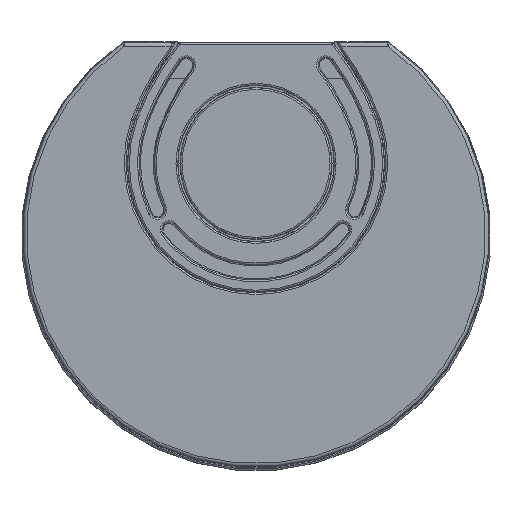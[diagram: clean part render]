
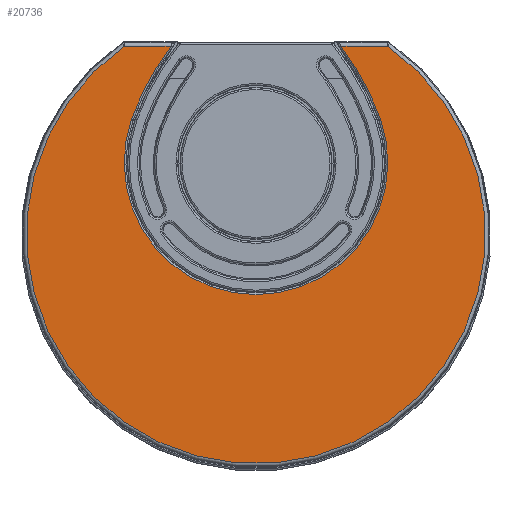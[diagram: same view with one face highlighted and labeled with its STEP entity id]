
A CAD part, top view. The second image highlights one B-rep face of the part: STEP entity #20736.
In plain terms, the highlighted planar face has unit normal (0, 0, 1).
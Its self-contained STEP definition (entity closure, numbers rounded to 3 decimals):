
#2532=CIRCLE('',#23192,152.766);
#2533=CIRCLE('',#23193,302.766);
#2534=CIRCLE('',#23194,0.09);
#2535=CIRCLE('',#23195,266.055);
#2536=CIRCLE('',#23196,0.09);
#2537=CIRCLE('',#23197,302.766);
#3456=ORIENTED_EDGE('',*,*,#9962,.T.);
#3457=ORIENTED_EDGE('',*,*,#9963,.T.);
#3458=ORIENTED_EDGE('',*,*,#9964,.T.);
#3459=ORIENTED_EDGE('',*,*,#9965,.T.);
#3460=ORIENTED_EDGE('',*,*,#9966,.T.);
#3461=ORIENTED_EDGE('',*,*,#9967,.T.);
#3462=ORIENTED_EDGE('',*,*,#9968,.T.);
#3463=ORIENTED_EDGE('',*,*,#9969,.T.);
#9962=EDGE_CURVE('',#13213,#13214,#2532,.F.);
#9963=EDGE_CURVE('',#13214,#13215,#2533,.F.);
#9964=EDGE_CURVE('',#13215,#13216,#15306,.F.);
#9965=EDGE_CURVE('',#13216,#13217,#2534,.T.);
#9966=EDGE_CURVE('',#13217,#13218,#2535,.T.);
#9967=EDGE_CURVE('',#13218,#13219,#2536,.T.);
#9968=EDGE_CURVE('',#13219,#13220,#15307,.F.);
#9969=EDGE_CURVE('',#13220,#13213,#2537,.F.);
#13213=VERTEX_POINT('',#29654);
#13214=VERTEX_POINT('',#29655);
#13215=VERTEX_POINT('',#29657);
#13216=VERTEX_POINT('',#29659);
#13217=VERTEX_POINT('',#29661);
#13218=VERTEX_POINT('',#29663);
#13219=VERTEX_POINT('',#29665);
#13220=VERTEX_POINT('',#29667);
#15306=LINE('',#29658,#16330);
#15307=LINE('',#29666,#16331);
#16330=VECTOR('',#25026,1000.);
#16331=VECTOR('',#25033,1000.);
#17347=EDGE_LOOP('',(#3456,#3457,#3458,#3459,#3460,#3461,#3462,#3463));
#18783=FACE_BOUND('',#17347,.T.);
#20216=PLANE('',#23191);
#20736=ADVANCED_FACE('',(#18783),#20216,.T.);
#23191=AXIS2_PLACEMENT_3D('',#29652,#25020,#25021);
#23192=AXIS2_PLACEMENT_3D('',#29653,#25022,#25023);
#23193=AXIS2_PLACEMENT_3D('',#29656,#25024,#25025);
#23194=AXIS2_PLACEMENT_3D('',#29660,#25027,#25028);
#23195=AXIS2_PLACEMENT_3D('',#29662,#25029,#25030);
#23196=AXIS2_PLACEMENT_3D('',#29664,#25031,#25032);
#23197=AXIS2_PLACEMENT_3D('',#29668,#25034,#25035);
#25020=DIRECTION('',(0.,0.,1.));
#25021=DIRECTION('',(1.,0.,0.));
#25022=DIRECTION('',(0.,0.,1.));
#25023=DIRECTION('',(1.,0.,0.));
#25024=DIRECTION('',(0.,0.,1.));
#25025=DIRECTION('',(1.,0.,0.));
#25026=DIRECTION('',(1.,0.,0.));
#25027=DIRECTION('',(0.,0.,1.));
#25028=DIRECTION('',(1.,0.,0.));
#25029=DIRECTION('',(0.,0.,1.));
#25030=DIRECTION('',(1.,0.,0.));
#25031=DIRECTION('',(0.,0.,1.));
#25032=DIRECTION('',(1.,0.,0.));
#25033=DIRECTION('',(1.,0.,0.));
#25034=DIRECTION('',(0.,0.,1.));
#25035=DIRECTION('',(1.,0.,0.));
#29652=CARTESIAN_POINT('',(152.409,-103.336,1260.));
#29653=CARTESIAN_POINT('',(0.,-238.5,1260.));
#29654=CARTESIAN_POINT('',(144.356,-188.513,1260.));
#29655=CARTESIAN_POINT('',(-144.356,-188.513,1260.));
#29656=CARTESIAN_POINT('',(141.743,-287.582,1260.));
#29657=CARTESIAN_POINT('',(-98.439,-103.245,1260.));
#29658=CARTESIAN_POINT('',(-152.409,-103.245,1260.));
#29659=CARTESIAN_POINT('',(-152.409,-103.245,1260.));
#29660=CARTESIAN_POINT('',(-152.409,-103.336,1260.));
#29661=CARTESIAN_POINT('',(-152.461,-103.262,1260.));
#29662=CARTESIAN_POINT('',(0.,-321.3,1260.));
#29663=CARTESIAN_POINT('',(152.461,-103.262,1260.));
#29664=CARTESIAN_POINT('',(152.409,-103.336,1260.));
#29665=CARTESIAN_POINT('',(152.41,-103.245,1260.));
#29666=CARTESIAN_POINT('',(92.866,-103.245,1260.));
#29667=CARTESIAN_POINT('',(98.439,-103.245,1260.));
#29668=CARTESIAN_POINT('',(-141.743,-287.582,1260.));
